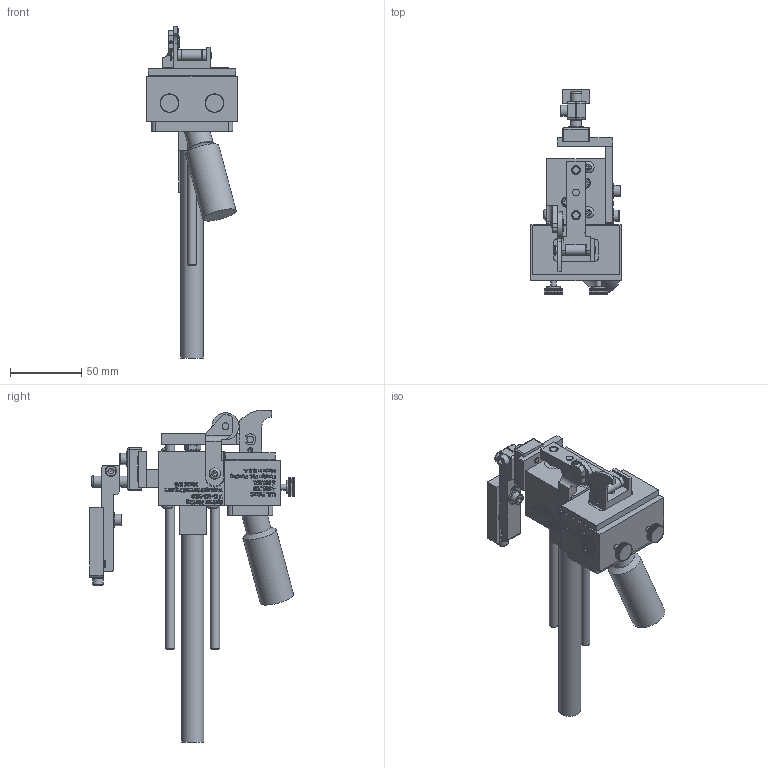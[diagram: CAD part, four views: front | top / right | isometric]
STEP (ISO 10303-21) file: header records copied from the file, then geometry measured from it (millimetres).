
FILE_DESCRIPTION((''),'2;1');
FILE_NAME('C:\Documents and Settings\Ron\My Documents\Inventor\Sprinter Drawing\Machines in Inventor\Model 816\Type\Ext Str\E2\Brkt\Ret\Model 816 ES 2 Ret w brkt.stp','2009-01-22T07:32:09',('Ron'),(''),'Autodesk Inventor 2008','Autodesk Inventor 2008','');
FILE_SCHEMA(('AUTOMOTIVE_DESIGN { 1 0 10303 214 1 1 1 1 }'));
Length unit declared in the file: inch
Products named in the file (1): Model 816  ES 2 Ret w brkt
Bounding box: 63.5 x 144.17 x 233.76 mm (x, y, z)
Volume: 281466.7 mm3; surface area: 94046 mm2
Topology: 378 solids, 378 shells, 6740 faces, 16814 edges, 10436 vertices
Faces by surface type: plane 4662, bspline 1457, cylinder 536, cone 66, torus 15, sphere 4
Full cylindrical faces by diameter (mm): 2.54 x2, 2.845 x1, 3.175 x1, 4.064 x2, 4.166 x3, 4.699 x3, 4.75 x2, 4.826 x10, 5.08 x1, 5.156 x3, 6.223 x2, 6.325 x2, 6.35 x2, 6.604 x1, 6.68 x1, 6.858 x2, 7.62 x2, 7.925 x11, 7.938 x1, 9.017 x1, 9.525 x2, 10.312 x4, 10.922 x1, 15.494 x1, 17.526 x1, 19.05 x1, 24.13 x1
Entity records: 210784 total; most frequent: CARTESIAN_POINT 58174, ORIENTED_EDGE 33000, DIRECTION 25555, EDGE_CURVE 16500, VECTOR 12257, LINE 12257, VERTEX_POINT 10329, EDGE_LOOP 7369
